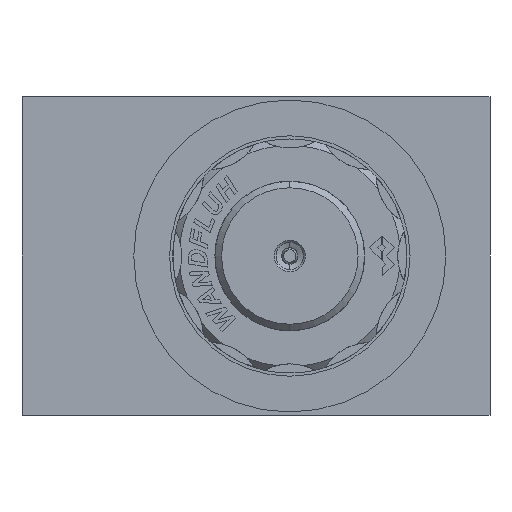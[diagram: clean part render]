
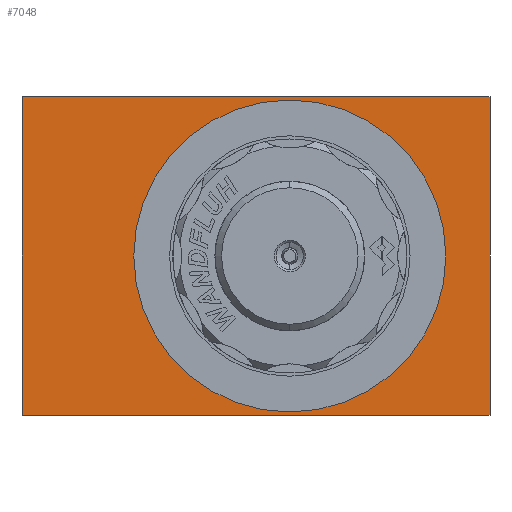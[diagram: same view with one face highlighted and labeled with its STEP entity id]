
A CAD part, left-side view. The second image highlights one B-rep face of the part: STEP entity #7048.
In plain terms, the highlighted planar face has unit normal (-1, 0, 0).
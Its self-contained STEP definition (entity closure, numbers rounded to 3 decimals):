
#707 = ORIENTED_EDGE ( 'NONE', *, *, #41173, .F. ) ;
#797 = CIRCLE ( 'NONE', #28753, 14.5 ) ;
#1480 = EDGE_CURVE ( 'NONE', #26068, #23291, #26007, .T. ) ;
#2170 = AXIS2_PLACEMENT_3D ( 'NONE', #37143, #12511, #12286 ) ;
#3380 = VECTOR ( 'NONE', #15176, 1000. ) ;
#3531 = DIRECTION ( 'NONE',  ( 0., 0., -1. ) ) ;
#3620 = PLANE ( 'NONE',  #4035 ) ;
#4035 = AXIS2_PLACEMENT_3D ( 'NONE', #28047, #42071, #24589 ) ;
#5517 = CARTESIAN_POINT ( 'NONE',  ( -49., -36., 24.5 ) ) ;
#5826 = CARTESIAN_POINT ( 'NONE',  ( -49., 36., -24.5 ) ) ;
#6675 = CARTESIAN_POINT ( 'NONE',  ( -49., 36., 24.5 ) ) ;
#7048 = ADVANCED_FACE ( 'NONE', ( #45525, #38625 ), #3620, .F. ) ;
#8816 = LINE ( 'NONE', #5826, #33054 ) ;
#10794 = VERTEX_POINT ( 'NONE', #16610 ) ;
#11339 = CARTESIAN_POINT ( 'NONE',  ( -49., 36., 24.5 ) ) ;
#12154 = EDGE_CURVE ( 'NONE', #10794, #16488, #39207, .T. ) ;
#12286 = DIRECTION ( 'NONE',  ( 0., 0., -1. ) ) ;
#12511 = DIRECTION ( 'NONE',  ( 1., 0., 0. ) ) ;
#14912 = ORIENTED_EDGE ( 'NONE', *, *, #1480, .T. ) ;
#14988 = VECTOR ( 'NONE', #21503, 1000. ) ;
#15176 = DIRECTION ( 'NONE',  ( 0., 0., 1. ) ) ;
#15456 = ORIENTED_EDGE ( 'NONE', *, *, #12154, .F. ) ;
#15780 = EDGE_LOOP ( 'NONE', ( #14912, #707, #15456, #26343 ) ) ;
#15944 = CARTESIAN_POINT ( 'NONE',  ( -49., -36., 24.5 ) ) ;
#16077 = CARTESIAN_POINT ( 'NONE',  ( -49., 36., 24.5 ) ) ;
#16488 = VERTEX_POINT ( 'NONE', #16077 ) ;
#16610 = CARTESIAN_POINT ( 'NONE',  ( -49., 36., -24.5 ) ) ;
#19894 = ORIENTED_EDGE ( 'NONE', *, *, #23036, .T. ) ;
#20487 = DIRECTION ( 'NONE',  ( 0., -1., 0. ) ) ;
#20574 = EDGE_CURVE ( 'NONE', #21482, #32449, #33757, .T. ) ;
#21060 = CARTESIAN_POINT ( 'NONE',  ( -49., -5.2, 0. ) ) ;
#21482 = VERTEX_POINT ( 'NONE', #38355 ) ;
#21503 = DIRECTION ( 'NONE',  ( 0., 0., 1. ) ) ;
#23036 = EDGE_CURVE ( 'NONE', #32449, #21482, #797, .T. ) ;
#23291 = VERTEX_POINT ( 'NONE', #15944 ) ;
#24589 = DIRECTION ( 'NONE',  ( 0., 0., -1. ) ) ;
#24777 = CARTESIAN_POINT ( 'NONE',  ( -49., -36., -24.5 ) ) ;
#25660 = EDGE_LOOP ( 'NONE', ( #19894, #32703 ) ) ;
#26007 = LINE ( 'NONE', #5517, #3380 ) ;
#26068 = VERTEX_POINT ( 'NONE', #24777 ) ;
#26343 = ORIENTED_EDGE ( 'NONE', *, *, #31858, .T. ) ;
#27939 = VECTOR ( 'NONE', #20487, 1000. ) ;
#28047 = CARTESIAN_POINT ( 'NONE',  ( -49., 36., 24.5 ) ) ;
#28753 = AXIS2_PLACEMENT_3D ( 'NONE', #21060, #35521, #3531 ) ;
#31858 = EDGE_CURVE ( 'NONE', #10794, #26068, #8816, .T. ) ;
#32449 = VERTEX_POINT ( 'NONE', #41518 ) ;
#32703 = ORIENTED_EDGE ( 'NONE', *, *, #20574, .T. ) ;
#33054 = VECTOR ( 'NONE', #40345, 1000. ) ;
#33757 = CIRCLE ( 'NONE', #2170, 14.5 ) ;
#34965 = LINE ( 'NONE', #6675, #27939 ) ;
#35521 = DIRECTION ( 'NONE',  ( 1., 0., 0. ) ) ;
#37143 = CARTESIAN_POINT ( 'NONE',  ( -49., -5.2, 0. ) ) ;
#38355 = CARTESIAN_POINT ( 'NONE',  ( -49., -5.2, 14.5 ) ) ;
#38625 = FACE_OUTER_BOUND ( 'NONE', #15780, .T. ) ;
#39207 = LINE ( 'NONE', #11339, #14988 ) ;
#40345 = DIRECTION ( 'NONE',  ( 0., -1., 0. ) ) ;
#41173 = EDGE_CURVE ( 'NONE', #16488, #23291, #34965, .T. ) ;
#41518 = CARTESIAN_POINT ( 'NONE',  ( -49., -5.2, -14.5 ) ) ;
#42071 = DIRECTION ( 'NONE',  ( 1., 0., 0. ) ) ;
#45525 = FACE_BOUND ( 'NONE', #25660, .T. ) ;
